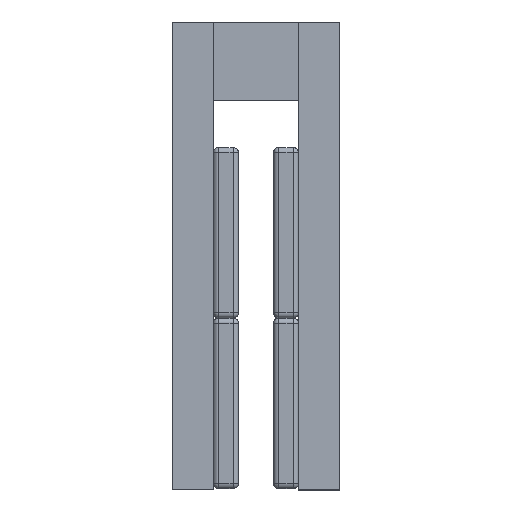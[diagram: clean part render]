
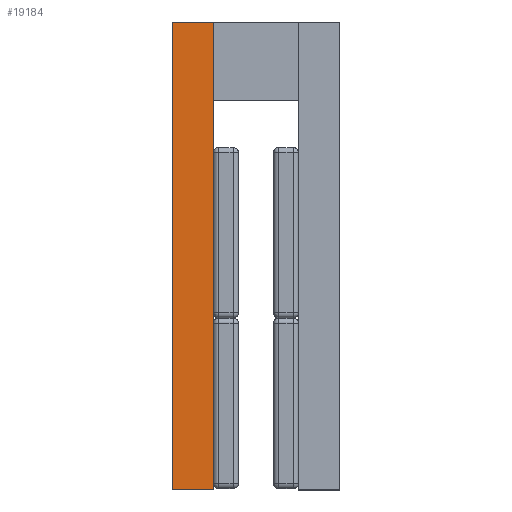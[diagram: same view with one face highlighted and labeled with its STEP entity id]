
A CAD part, left-side view. The second image highlights one B-rep face of the part: STEP entity #19184.
In plain terms, the highlighted planar face has unit normal (-1, 0, 0).
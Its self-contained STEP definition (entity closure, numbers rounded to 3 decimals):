
#437 = ORIENTED_EDGE ( 'NONE', *, *, #20317, .T. ) ;
#1713 = DIRECTION ( 'NONE',  ( 0., -1., 0. ) ) ;
#1717 = LINE ( 'NONE', #45678, #2298 ) ;
#2298 = VECTOR ( 'NONE', #41876, 1000. ) ;
#3826 = DIRECTION ( 'NONE',  ( 0., 0., 1. ) ) ;
#5847 = EDGE_CURVE ( 'NONE', #26258, #12089, #9099, .T. ) ;
#7532 = PLANE ( 'NONE',  #23704 ) ;
#9099 = LINE ( 'NONE', #15046, #11526 ) ;
#9463 = ORIENTED_EDGE ( 'NONE', *, *, #20191, .F. ) ;
#10077 = ORIENTED_EDGE ( 'NONE', *, *, #42877, .T. ) ;
#10361 = VECTOR ( 'NONE', #45446, 1000. ) ;
#10437 = VERTEX_POINT ( 'NONE', #13542 ) ;
#11526 = VECTOR ( 'NONE', #3826, 1000. ) ;
#11528 = VECTOR ( 'NONE', #1713, 1000. ) ;
#12089 = VERTEX_POINT ( 'NONE', #37750 ) ;
#12765 = LINE ( 'NONE', #49321, #10361 ) ;
#13542 = CARTESIAN_POINT ( 'NONE',  ( -215.796, 15.915, 15. ) ) ;
#14536 = LINE ( 'NONE', #23566, #11528 ) ;
#15046 = CARTESIAN_POINT ( 'NONE',  ( -215.796, 31.815, -164.7 ) ) ;
#18918 = DIRECTION ( 'NONE',  ( 0., -1., 0. ) ) ;
#19184 = ADVANCED_FACE ( 'NONE', ( #38670 ), #7532, .F. ) ;
#20004 = EDGE_LOOP ( 'NONE', ( #10077, #9463, #34079, #437 ) ) ;
#20191 = EDGE_CURVE ( 'NONE', #12089, #10437, #12765, .T. ) ;
#20317 = EDGE_CURVE ( 'NONE', #26258, #23643, #14536, .T. ) ;
#23566 = CARTESIAN_POINT ( 'NONE',  ( -215.796, 31.815, -164.7 ) ) ;
#23643 = VERTEX_POINT ( 'NONE', #40685 ) ;
#23704 = AXIS2_PLACEMENT_3D ( 'NONE', #34242, #30285, #18918 ) ;
#26258 = VERTEX_POINT ( 'NONE', #43245 ) ;
#30285 = DIRECTION ( 'NONE',  ( 1., 0., 0. ) ) ;
#34079 = ORIENTED_EDGE ( 'NONE', *, *, #5847, .F. ) ;
#34242 = CARTESIAN_POINT ( 'NONE',  ( -215.796, 31.815, -164.7 ) ) ;
#37750 = CARTESIAN_POINT ( 'NONE',  ( -215.796, 31.815, 15. ) ) ;
#38670 = FACE_OUTER_BOUND ( 'NONE', #20004, .T. ) ;
#40685 = CARTESIAN_POINT ( 'NONE',  ( -215.796, 15.915, -164.7 ) ) ;
#41876 = DIRECTION ( 'NONE',  ( 0., 0., 1. ) ) ;
#42877 = EDGE_CURVE ( 'NONE', #23643, #10437, #1717, .T. ) ;
#43245 = CARTESIAN_POINT ( 'NONE',  ( -215.796, 31.815, -164.7 ) ) ;
#45446 = DIRECTION ( 'NONE',  ( 0., -1., 0. ) ) ;
#45678 = CARTESIAN_POINT ( 'NONE',  ( -215.796, 15.915, -164.7 ) ) ;
#49321 = CARTESIAN_POINT ( 'NONE',  ( -215.796, 31.815, 15. ) ) ;
